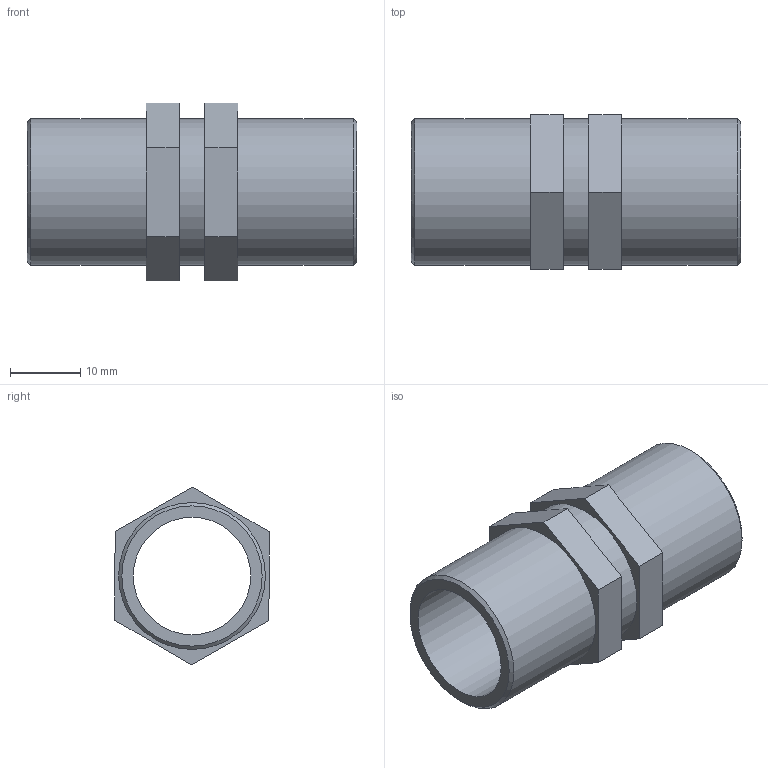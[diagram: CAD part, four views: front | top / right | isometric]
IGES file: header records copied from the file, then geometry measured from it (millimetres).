
Global section: file name: 050607005_0506070050A.ipt; native system: Autodesk Inventor 2015; preprocessor: unknown; author: KIM; date: 20170618.093241; units: millimetre
Bounding box: 47 x 22.04 x 25.4 mm (x, y, z)
Volume: 6519.2 mm3; surface area: 6175.5 mm2
Topology: 1 solids, 1 shells, 24 faces, 54 edges, 36 vertices
Faces by surface type: plane 18, cylinder 3, cone 2, revolution 1
Full cylindrical faces by diameter (mm): 20.955 x3
